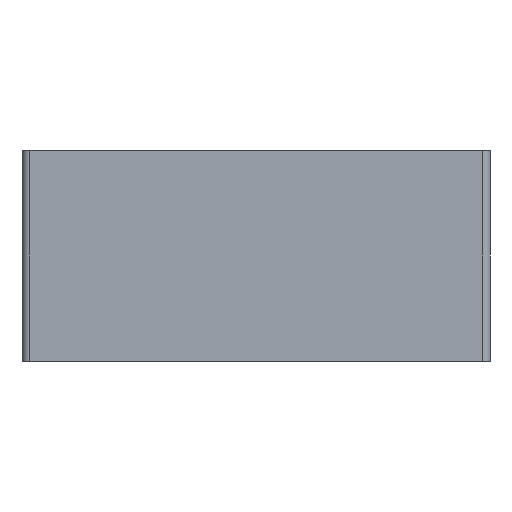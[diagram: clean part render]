
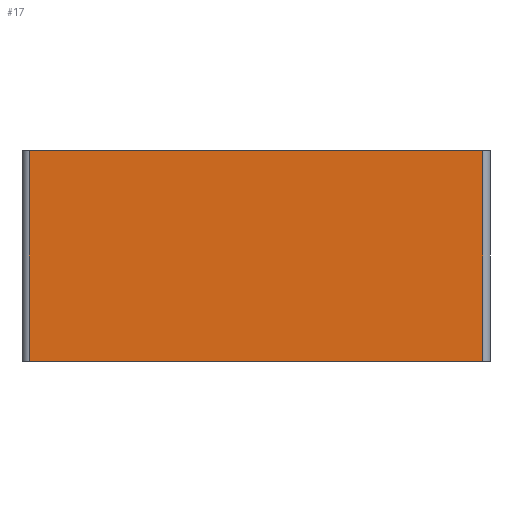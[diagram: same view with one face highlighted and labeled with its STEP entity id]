
A CAD part, front view. The second image highlights one B-rep face of the part: STEP entity #17.
In plain terms, the highlighted planar face has unit normal (0, -1, 0).
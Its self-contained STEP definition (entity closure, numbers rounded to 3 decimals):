
#17 = ADVANCED_FACE('',(#18),#32,.F.);
#18 = FACE_BOUND('',#19,.F.);
#19 = EDGE_LOOP('',(#20,#55,#83,#111));
#20 = ORIENTED_EDGE('',*,*,#21,.F.);
#21 = EDGE_CURVE('',#22,#24,#26,.T.);
#22 = VERTEX_POINT('',#23);
#23 = CARTESIAN_POINT('',(0.25,0.,0.));
#24 = VERTEX_POINT('',#25);
#25 = CARTESIAN_POINT('',(15.75,0.,0.));
#26 = SURFACE_CURVE('',#27,(#31,#43),.PCURVE_S1.);
#27 = LINE('',#28,#29);
#28 = CARTESIAN_POINT('',(0.,0.,0.));
#29 = VECTOR('',#30,1.);
#30 = DIRECTION('',(1.,0.,0.));
#31 = PCURVE('',#32,#37);
#32 = PLANE('',#33);
#33 = AXIS2_PLACEMENT_3D('',#34,#35,#36);
#34 = CARTESIAN_POINT('',(0.,0.,0.));
#35 = DIRECTION('',(0.,1.,0.));
#36 = DIRECTION('',(1.,0.,0.));
#37 = DEFINITIONAL_REPRESENTATION('',(#38),#42);
#38 = LINE('',#39,#40);
#39 = CARTESIAN_POINT('',(0.,0.));
#40 = VECTOR('',#41,1.);
#41 = DIRECTION('',(1.,0.));
#42 = ( GEOMETRIC_REPRESENTATION_CONTEXT(2) 
PARAMETRIC_REPRESENTATION_CONTEXT() REPRESENTATION_CONTEXT('2D SPACE',''
  ) );
#43 = PCURVE('',#44,#49);
#44 = PLANE('',#45);
#45 = AXIS2_PLACEMENT_3D('',#46,#47,#48);
#46 = CARTESIAN_POINT('',(7.811,0.993,0.));
#47 = DIRECTION('',(0.,0.,1.));
#48 = DIRECTION('',(1.,0.,-0.));
#49 = DEFINITIONAL_REPRESENTATION('',(#50),#54);
#50 = LINE('',#51,#52);
#51 = CARTESIAN_POINT('',(-7.811,-0.993));
#52 = VECTOR('',#53,1.);
#53 = DIRECTION('',(1.,0.));
#54 = ( GEOMETRIC_REPRESENTATION_CONTEXT(2) 
PARAMETRIC_REPRESENTATION_CONTEXT() REPRESENTATION_CONTEXT('2D SPACE',''
  ) );
#55 = ORIENTED_EDGE('',*,*,#56,.T.);
#56 = EDGE_CURVE('',#22,#57,#59,.T.);
#57 = VERTEX_POINT('',#58);
#58 = CARTESIAN_POINT('',(0.25,0.,7.2));
#59 = SURFACE_CURVE('',#60,(#64,#71),.PCURVE_S1.);
#60 = LINE('',#61,#62);
#61 = CARTESIAN_POINT('',(0.25,0.,0.));
#62 = VECTOR('',#63,1.);
#63 = DIRECTION('',(0.,0.,1.));
#64 = PCURVE('',#32,#65);
#65 = DEFINITIONAL_REPRESENTATION('',(#66),#70);
#66 = LINE('',#67,#68);
#67 = CARTESIAN_POINT('',(0.25,0.));
#68 = VECTOR('',#69,1.);
#69 = DIRECTION('',(0.,-1.));
#70 = ( GEOMETRIC_REPRESENTATION_CONTEXT(2) 
PARAMETRIC_REPRESENTATION_CONTEXT() REPRESENTATION_CONTEXT('2D SPACE',''
  ) );
#71 = PCURVE('',#72,#77);
#72 = CYLINDRICAL_SURFACE('',#73,0.25);
#73 = AXIS2_PLACEMENT_3D('',#74,#75,#76);
#74 = CARTESIAN_POINT('',(0.25,0.25,0.));
#75 = DIRECTION('',(0.,0.,1.));
#76 = DIRECTION('',(0.,-1.,0.));
#77 = DEFINITIONAL_REPRESENTATION('',(#78),#82);
#78 = LINE('',#79,#80);
#79 = CARTESIAN_POINT('',(-0.,0.));
#80 = VECTOR('',#81,1.);
#81 = DIRECTION('',(-0.,1.));
#82 = ( GEOMETRIC_REPRESENTATION_CONTEXT(2) 
PARAMETRIC_REPRESENTATION_CONTEXT() REPRESENTATION_CONTEXT('2D SPACE',''
  ) );
#83 = ORIENTED_EDGE('',*,*,#84,.T.);
#84 = EDGE_CURVE('',#57,#85,#87,.T.);
#85 = VERTEX_POINT('',#86);
#86 = CARTESIAN_POINT('',(15.75,0.,7.2));
#87 = SURFACE_CURVE('',#88,(#92,#99),.PCURVE_S1.);
#88 = LINE('',#89,#90);
#89 = CARTESIAN_POINT('',(0.,0.,7.2));
#90 = VECTOR('',#91,1.);
#91 = DIRECTION('',(1.,0.,0.));
#92 = PCURVE('',#32,#93);
#93 = DEFINITIONAL_REPRESENTATION('',(#94),#98);
#94 = LINE('',#95,#96);
#95 = CARTESIAN_POINT('',(0.,-7.2));
#96 = VECTOR('',#97,1.);
#97 = DIRECTION('',(1.,0.));
#98 = ( GEOMETRIC_REPRESENTATION_CONTEXT(2) 
PARAMETRIC_REPRESENTATION_CONTEXT() REPRESENTATION_CONTEXT('2D SPACE',''
  ) );
#99 = PCURVE('',#100,#105);
#100 = PLANE('',#101);
#101 = AXIS2_PLACEMENT_3D('',#102,#103,#104);
#102 = CARTESIAN_POINT('',(7.811,0.993,7.2));
#103 = DIRECTION('',(0.,0.,1.));
#104 = DIRECTION('',(1.,0.,-0.));
#105 = DEFINITIONAL_REPRESENTATION('',(#106),#110);
#106 = LINE('',#107,#108);
#107 = CARTESIAN_POINT('',(-7.811,-0.993));
#108 = VECTOR('',#109,1.);
#109 = DIRECTION('',(1.,0.));
#110 = ( GEOMETRIC_REPRESENTATION_CONTEXT(2) 
PARAMETRIC_REPRESENTATION_CONTEXT() REPRESENTATION_CONTEXT('2D SPACE',''
  ) );
#111 = ORIENTED_EDGE('',*,*,#112,.F.);
#112 = EDGE_CURVE('',#24,#85,#113,.T.);
#113 = SURFACE_CURVE('',#114,(#118,#125),.PCURVE_S1.);
#114 = LINE('',#115,#116);
#115 = CARTESIAN_POINT('',(15.75,0.,0.));
#116 = VECTOR('',#117,1.);
#117 = DIRECTION('',(0.,0.,1.));
#118 = PCURVE('',#32,#119);
#119 = DEFINITIONAL_REPRESENTATION('',(#120),#124);
#120 = LINE('',#121,#122);
#121 = CARTESIAN_POINT('',(15.75,0.));
#122 = VECTOR('',#123,1.);
#123 = DIRECTION('',(0.,-1.));
#124 = ( GEOMETRIC_REPRESENTATION_CONTEXT(2) 
PARAMETRIC_REPRESENTATION_CONTEXT() REPRESENTATION_CONTEXT('2D SPACE',''
  ) );
#125 = PCURVE('',#126,#131);
#126 = CYLINDRICAL_SURFACE('',#127,0.25);
#127 = AXIS2_PLACEMENT_3D('',#128,#129,#130);
#128 = CARTESIAN_POINT('',(15.75,0.25,0.));
#129 = DIRECTION('',(0.,0.,1.));
#130 = DIRECTION('',(0.,-1.,0.));
#131 = DEFINITIONAL_REPRESENTATION('',(#132),#136);
#132 = LINE('',#133,#134);
#133 = CARTESIAN_POINT('',(0.,0.));
#134 = VECTOR('',#135,1.);
#135 = DIRECTION('',(0.,1.));
#136 = ( GEOMETRIC_REPRESENTATION_CONTEXT(2) 
PARAMETRIC_REPRESENTATION_CONTEXT() REPRESENTATION_CONTEXT('2D SPACE',''
  ) );
